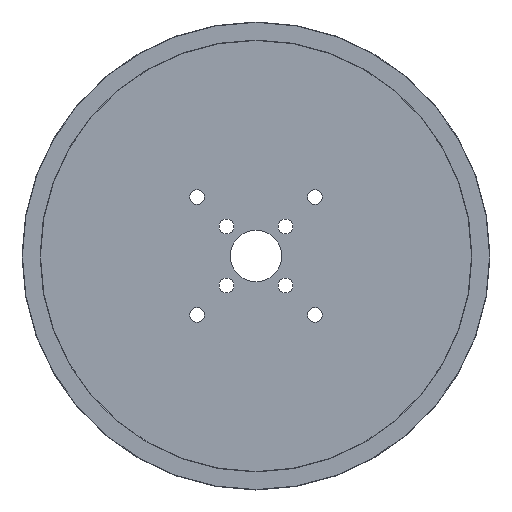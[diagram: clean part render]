
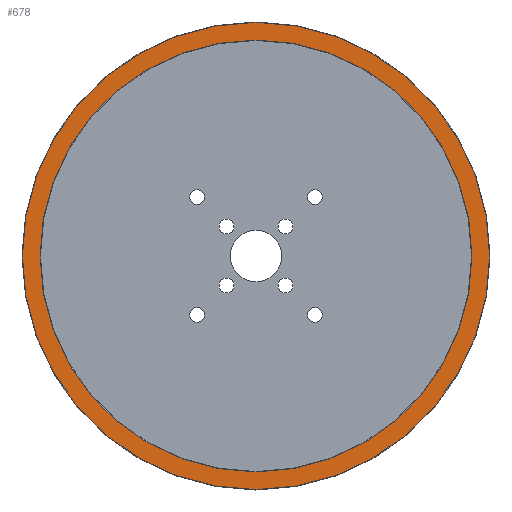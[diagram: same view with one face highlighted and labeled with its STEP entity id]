
A CAD part, top view. The second image highlights one B-rep face of the part: STEP entity #678.
In plain terms, the highlighted planar face has unit normal (0, 0, 1).
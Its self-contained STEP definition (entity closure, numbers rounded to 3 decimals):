
#18 = CARTESIAN_POINT ( 'NONE',  ( 0., 0., 3. ) ) ;
#32 = CARTESIAN_POINT ( 'NONE',  ( 58.6, 0., 3. ) ) ;
#120 = CARTESIAN_POINT ( 'NONE',  ( 63.4, 0., 3. ) ) ;
#123 = AXIS2_PLACEMENT_3D ( 'NONE', #927, #477, #360 ) ;
#135 = CARTESIAN_POINT ( 'NONE',  ( 0., 0., 3. ) ) ;
#169 = ORIENTED_EDGE ( 'NONE', *, *, #1442, .T. ) ;
#177 = CIRCLE ( 'NONE', #1310, 58.6 ) ;
#251 = DIRECTION ( 'NONE',  ( 0., 0., 1. ) ) ;
#256 = VERTEX_POINT ( 'NONE', #32 ) ;
#285 = DIRECTION ( 'NONE',  ( 0., 0., -1. ) ) ;
#354 = CARTESIAN_POINT ( 'NONE',  ( 0., 0., 3. ) ) ;
#360 = DIRECTION ( 'NONE',  ( -1., 0., 0. ) ) ;
#404 = CIRCLE ( 'NONE', #811, 63.4 ) ;
#477 = DIRECTION ( 'NONE',  ( 0., 0., -1. ) ) ;
#490 = DIRECTION ( 'NONE',  ( -1., 0., 0. ) ) ;
#574 = AXIS2_PLACEMENT_3D ( 'NONE', #882, #285, #660 ) ;
#648 = VERTEX_POINT ( 'NONE', #120 ) ;
#660 = DIRECTION ( 'NONE',  ( -1., 0., 0. ) ) ;
#678 = ADVANCED_FACE ( 'NONE', ( #1201, #1166 ), #1142, .F. ) ;
#709 = EDGE_CURVE ( 'NONE', #648, #1402, #404, .T. ) ;
#715 = DIRECTION ( 'NONE',  ( -1., 0., 0. ) ) ;
#739 = EDGE_LOOP ( 'NONE', ( #169, #1324 ) ) ;
#759 = ORIENTED_EDGE ( 'NONE', *, *, #709, .T. ) ;
#811 = AXIS2_PLACEMENT_3D ( 'NONE', #135, #1388, #715 ) ;
#882 = CARTESIAN_POINT ( 'NONE',  ( 0., 0., 3. ) ) ;
#927 = CARTESIAN_POINT ( 'NONE',  ( 0., 0., 3. ) ) ;
#945 = EDGE_LOOP ( 'NONE', ( #1185, #759 ) ) ;
#1008 = CIRCLE ( 'NONE', #574, 58.6 ) ;
#1019 = CARTESIAN_POINT ( 'NONE',  ( -58.6, 0., 3. ) ) ;
#1057 = VERTEX_POINT ( 'NONE', #1019 ) ;
#1058 = DIRECTION ( 'NONE',  ( -1., 0., 0. ) ) ;
#1071 = CARTESIAN_POINT ( 'NONE',  ( -63.4, 0., 3. ) ) ;
#1142 = PLANE ( 'NONE',  #123 ) ;
#1166 = FACE_OUTER_BOUND ( 'NONE', #945, .T. ) ;
#1170 = DIRECTION ( 'NONE',  ( 0., 0., -1. ) ) ;
#1182 = EDGE_CURVE ( 'NONE', #256, #1057, #177, .T. ) ;
#1185 = ORIENTED_EDGE ( 'NONE', *, *, #1194, .T. ) ;
#1194 = EDGE_CURVE ( 'NONE', #1402, #648, #1452, .T. ) ;
#1201 = FACE_BOUND ( 'NONE', #739, .T. ) ;
#1310 = AXIS2_PLACEMENT_3D ( 'NONE', #354, #1170, #490 ) ;
#1324 = ORIENTED_EDGE ( 'NONE', *, *, #1182, .T. ) ;
#1388 = DIRECTION ( 'NONE',  ( 0., 0., 1. ) ) ;
#1402 = VERTEX_POINT ( 'NONE', #1071 ) ;
#1442 = EDGE_CURVE ( 'NONE', #1057, #256, #1008, .T. ) ;
#1452 = CIRCLE ( 'NONE', #1464, 63.4 ) ;
#1464 = AXIS2_PLACEMENT_3D ( 'NONE', #18, #251, #1058 ) ;
